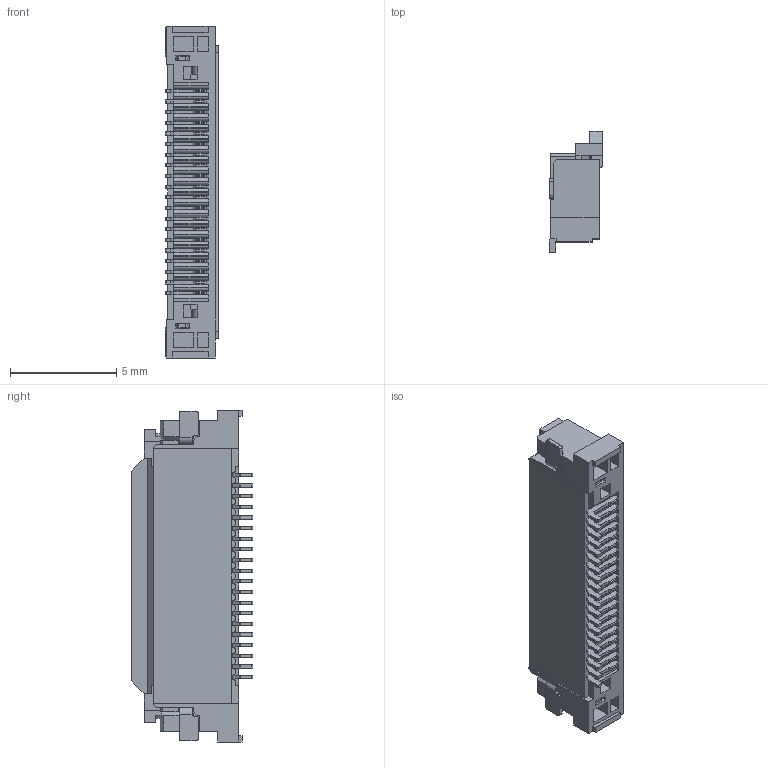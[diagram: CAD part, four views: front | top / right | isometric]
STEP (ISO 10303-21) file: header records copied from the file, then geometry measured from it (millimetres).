
FILE_DESCRIPTION((''),'2;1');
FILE_NAME('S-50520-020XX-XXX','2012-07-30T',('Rd_03'),(''),'PRO/ENGINEER BY PARAMETRIC TECHNOLOGY CORPORATION, 2011190','PRO/ENGINEER BY PARAMETRIC TECHNOLOGY CORPORATION, 2011190','');
FILE_SCHEMA(('CONFIG_CONTROL_DESIGN'));
Products named in the file (1): S-50520-020XX-XXX
Bounding box: 2.51 x 5.7 x 15.6 mm (x, y, z)
Volume: 98.7 mm3; surface area: 639.6 mm2
Topology: 1 solids, 1 shells, 2013 faces, 6533 edges, 4300 vertices
Faces by surface type: plane 1330, cylinder 683
Entity records: 72253 total; most frequent: CARTESIAN_POINT 13156, ORIENTED_EDGE 13066, DIRECTION 12057, EDGE_CURVE 6533, VECTOR 4835, LINE 4835, VERTEX_POINT 4300, AXIS2_PLACEMENT_3D 3611
